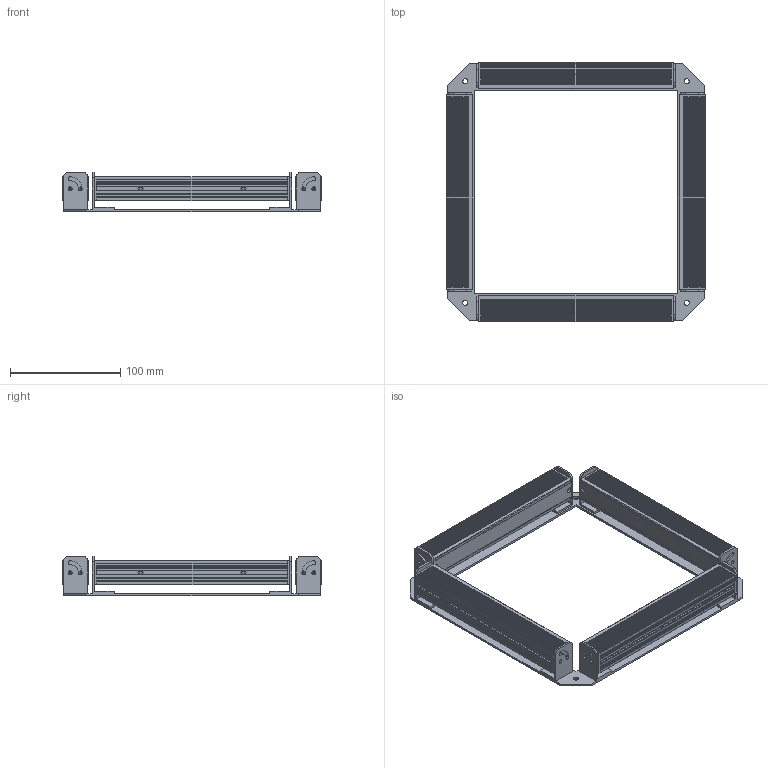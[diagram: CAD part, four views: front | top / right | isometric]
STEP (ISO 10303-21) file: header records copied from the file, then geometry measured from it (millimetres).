
FILE_DESCRIPTION((''),'2;1');
FILE_NAME('MSL-102-102_ASM','2020-03-26T',('ASUS'),(''),'PRO/ENGINEER BY PARAMETRIC TECHNOLOGY CORPORATION, 2008380','PRO/ENGINEER BY PARAMETRIC TECHNOLOGY CORPORATION, 2008380','');
FILE_SCHEMA(('CONFIG_CONTROL_DESIGN'));
Length unit declared in the file: millimetre
Products named in the file (3): PRT0002; PRT0007; MSL-102-102_ASM
Assembly tree (5 placements, depth 2):
  MSL-102-102_ASM
    PRT0002
    PRT0007  x4
Bounding box: 235.04 x 235.04 x 36 mm (x, y, z)
Volume: 382000.9 mm3; surface area: 183520.5 mm2
Topology: 5 solids, 21 shells, 1234 faces, 3320 edges, 2200 vertices
Faces by surface type: plane 738, cylinder 416, cone 80
Entity records: 13324 total; most frequent: CARTESIAN_POINT 2463, DIRECTION 2255, ORIENTED_EDGE 2222, EDGE_CURVE 1119, VECTOR 763, LINE 763, VERTEX_POINT 748, AXIS2_PLACEMENT_3D 746
